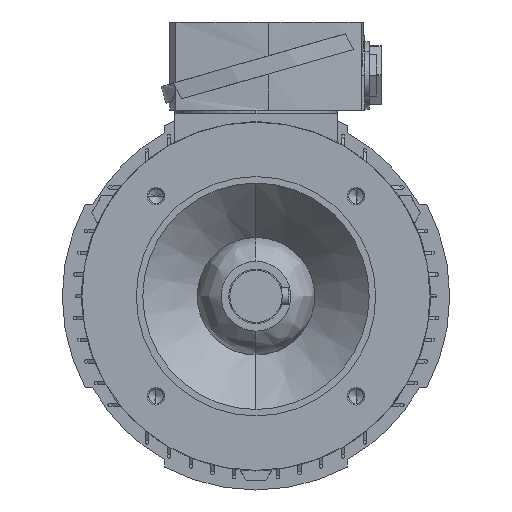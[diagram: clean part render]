
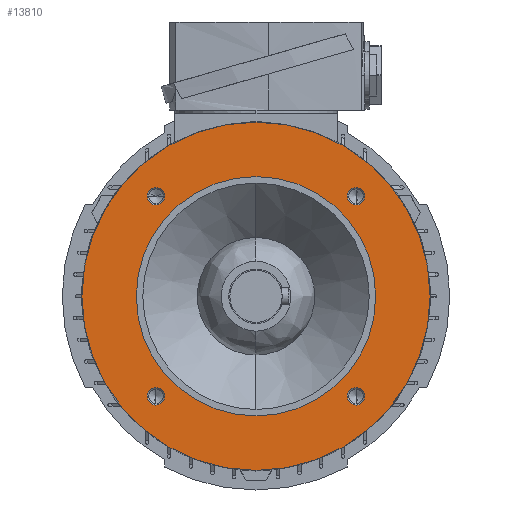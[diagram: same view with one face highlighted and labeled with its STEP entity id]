
A CAD part, left-side view. The second image highlights one B-rep face of the part: STEP entity #13810.
In plain terms, the highlighted planar face has unit normal (-1, 0, 0).
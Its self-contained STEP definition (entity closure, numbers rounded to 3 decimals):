
#2300 = PLANE ( 'NONE',  #15921 ) ;
#2302 = DIRECTION ( 'NONE',  ( -1., 0., 0. ) ) ;
#2307 = CARTESIAN_POINT ( 'NONE',  ( -34.5, 0., 67.5 ) ) ;
#2308 = DIRECTION ( 'NONE',  ( 0., 0., 1. ) ) ;
#3281 = AXIS2_PLACEMENT_3D ( 'NONE', #10238, #10239, #10240 ) ;
#3285 = AXIS2_PLACEMENT_3D ( 'NONE', #10282, #10284, #10286 ) ;
#3290 = AXIS2_PLACEMENT_3D ( 'NONE', #10350, #10351, #10352 ) ;
#3293 = AXIS2_PLACEMENT_3D ( 'NONE', #10377, #10378, #10379 ) ;
#3318 = AXIS2_PLACEMENT_3D ( 'NONE', #6415, #6416, #6417 ) ;
#3320 = AXIS2_PLACEMENT_3D ( 'NONE', #6426, #6427, #6428 ) ;
#3575 = FACE_BOUND ( 'NONE', #20433, .T. ) ;
#3580 = FACE_BOUND ( 'NONE', #20432, .T. ) ;
#3600 = FACE_BOUND ( 'NONE', #20422, .T. ) ;
#3602 = FACE_BOUND ( 'NONE', #20430, .T. ) ;
#3605 = FACE_OUTER_BOUND ( 'NONE', #20392, .T. ) ;
#3608 = FACE_BOUND ( 'NONE', #20419, .T. ) ;
#6094 = CARTESIAN_POINT ( 'NONE',  ( -34.5, 45.962, 49.962 ) ) ;
#6128 = CARTESIAN_POINT ( 'NONE',  ( -34.5, 0., -55. ) ) ;
#6132 = CARTESIAN_POINT ( 'NONE',  ( -34.5, 0., 55. ) ) ;
#6138 = CARTESIAN_POINT ( 'NONE',  ( -34.5, -45.962, 49.962 ) ) ;
#6143 = CARTESIAN_POINT ( 'NONE',  ( -34.5, 45.962, -41.962 ) ) ;
#6165 = CARTESIAN_POINT ( 'NONE',  ( -34.5, 0., 80. ) ) ;
#6415 = CARTESIAN_POINT ( 'NONE',  ( -34.5, 45.962, 45.962 ) ) ;
#6416 = DIRECTION ( 'NONE',  ( 1., 0., 0. ) ) ;
#6417 = DIRECTION ( 'NONE',  ( 0., 0., 1. ) ) ;
#6426 = CARTESIAN_POINT ( 'NONE',  ( -34.5, 45.962, -45.962 ) ) ;
#6427 = DIRECTION ( 'NONE',  ( 1., 0., 0. ) ) ;
#6428 = DIRECTION ( 'NONE',  ( 0., 0., 1. ) ) ;
#8164 = CARTESIAN_POINT ( 'NONE',  ( -34.5, 0., -80. ) ) ;
#8168 = CARTESIAN_POINT ( 'NONE',  ( -34.5, 45.962, 41.962 ) ) ;
#9736 = CARTESIAN_POINT ( 'NONE',  ( -34.5, -45.962, -41.962 ) ) ;
#9741 = CARTESIAN_POINT ( 'NONE',  ( -34.5, -45.962, 41.962 ) ) ;
#9750 = CARTESIAN_POINT ( 'NONE',  ( -34.5, 45.962, -49.962 ) ) ;
#9754 = CARTESIAN_POINT ( 'NONE',  ( -34.5, -45.962, -49.962 ) ) ;
#10238 = CARTESIAN_POINT ( 'NONE',  ( -34.5, 0., 0. ) ) ;
#10239 = DIRECTION ( 'NONE',  ( 1., 0., 0. ) ) ;
#10240 = DIRECTION ( 'NONE',  ( 0., 0., -1. ) ) ;
#10282 = CARTESIAN_POINT ( 'NONE',  ( -34.5, -45.962, -45.962 ) ) ;
#10284 = DIRECTION ( 'NONE',  ( 1., 0., 0. ) ) ;
#10286 = DIRECTION ( 'NONE',  ( 0., 0., 1. ) ) ;
#10350 = CARTESIAN_POINT ( 'NONE',  ( -34.5, 0., 0. ) ) ;
#10351 = DIRECTION ( 'NONE',  ( 1., 0., 0. ) ) ;
#10352 = DIRECTION ( 'NONE',  ( 0., 0., 1. ) ) ;
#10377 = CARTESIAN_POINT ( 'NONE',  ( -34.5, -45.962, 45.962 ) ) ;
#10378 = DIRECTION ( 'NONE',  ( 1., 0., 0. ) ) ;
#10379 = DIRECTION ( 'NONE',  ( 0., 0., 1. ) ) ;
#10593 = ORIENTED_EDGE ( 'NONE', *, *, #15117, .T. ) ;
#10594 = ORIENTED_EDGE ( 'NONE', *, *, #11720, .T. ) ;
#10595 = ORIENTED_EDGE ( 'NONE', *, *, #15186, .F. ) ;
#10596 = ORIENTED_EDGE ( 'NONE', *, *, #11699, .F. ) ;
#10597 = ORIENTED_EDGE ( 'NONE', *, *, #11726, .T. ) ;
#10598 = ORIENTED_EDGE ( 'NONE', *, *, #15116, .T. ) ;
#10599 = ORIENTED_EDGE ( 'NONE', *, *, #11778, .T. ) ;
#10600 = ORIENTED_EDGE ( 'NONE', *, *, #15115, .T. ) ;
#10601 = ORIENTED_EDGE ( 'NONE', *, *, #11782, .T. ) ;
#10602 = ORIENTED_EDGE ( 'NONE', *, *, #15114, .T. ) ;
#10603 = ORIENTED_EDGE ( 'NONE', *, *, #11708, .T. ) ;
#10604 = ORIENTED_EDGE ( 'NONE', *, *, #15113, .T. ) ;
#11699 = EDGE_CURVE ( 'NONE', #23584, #15790, #20020, .T. ) ;
#11708 = EDGE_CURVE ( 'NONE', #12287, #12300, #20027, .T. ) ;
#11720 = EDGE_CURVE ( 'NONE', #23521, #23541, #20047, .T. ) ;
#11726 = EDGE_CURVE ( 'NONE', #23537, #12285, #20054, .T. ) ;
#11778 = EDGE_CURVE ( 'NONE', #23525, #15828, #20119, .T. ) ;
#11782 = EDGE_CURVE ( 'NONE', #23556, #12296, #20126, .T. ) ;
#12285 = VERTEX_POINT ( 'NONE', #9741 ) ;
#12287 = VERTEX_POINT ( 'NONE', #9736 ) ;
#12296 = VERTEX_POINT ( 'NONE', #9750 ) ;
#12300 = VERTEX_POINT ( 'NONE', #9754 ) ;
#13810 = ADVANCED_FACE ( 'NONE', ( #3602, #3605, #3600, #3575, #3580, #3608 ), #2300, .T. ) ;
#15113 = EDGE_CURVE ( 'NONE', #12300, #12287, #20859, .T. ) ;
#15114 = EDGE_CURVE ( 'NONE', #12296, #23556, #20864, .T. ) ;
#15115 = EDGE_CURVE ( 'NONE', #15828, #23525, #20865, .T. ) ;
#15116 = EDGE_CURVE ( 'NONE', #12285, #23537, #20866, .T. ) ;
#15117 = EDGE_CURVE ( 'NONE', #23541, #23521, #20867, .T. ) ;
#15186 = EDGE_CURVE ( 'NONE', #15790, #23584, #20981, .T. ) ;
#15790 = VERTEX_POINT ( 'NONE', #8164 ) ;
#15828 = VERTEX_POINT ( 'NONE', #8168 ) ;
#15921 = AXIS2_PLACEMENT_3D ( 'NONE', #2307, #2302, #2308 ) ;
#19264 = CARTESIAN_POINT ( 'NONE',  ( -34.5, -45.962, -45.962 ) ) ;
#19265 = DIRECTION ( 'NONE',  ( 1., 0., 0. ) ) ;
#19266 = DIRECTION ( 'NONE',  ( 0., 0., 1. ) ) ;
#19267 = CARTESIAN_POINT ( 'NONE',  ( -34.5, 45.962, -45.962 ) ) ;
#19268 = DIRECTION ( 'NONE',  ( 1., 0., 0. ) ) ;
#19269 = DIRECTION ( 'NONE',  ( 0., 0., 1. ) ) ;
#19270 = CARTESIAN_POINT ( 'NONE',  ( -34.5, 45.962, 45.962 ) ) ;
#19271 = DIRECTION ( 'NONE',  ( 1., 0., 0. ) ) ;
#19272 = DIRECTION ( 'NONE',  ( 0., 0., 1. ) ) ;
#19275 = CARTESIAN_POINT ( 'NONE',  ( -34.5, -45.962, 45.962 ) ) ;
#19276 = DIRECTION ( 'NONE',  ( 1., 0., 0. ) ) ;
#19277 = DIRECTION ( 'NONE',  ( 0., 0., 1. ) ) ;
#19280 = CARTESIAN_POINT ( 'NONE',  ( -34.5, 0., 0. ) ) ;
#19281 = DIRECTION ( 'NONE',  ( 1., 0., 0. ) ) ;
#19282 = DIRECTION ( 'NONE',  ( 0., 0., 1. ) ) ;
#19441 = CARTESIAN_POINT ( 'NONE',  ( -34.5, 0., 0. ) ) ;
#19442 = DIRECTION ( 'NONE',  ( 1., 0., 0. ) ) ;
#19443 = DIRECTION ( 'NONE',  ( 0., 0., -1. ) ) ;
#20020 = CIRCLE ( 'NONE', #3281, 80. ) ;
#20027 = CIRCLE ( 'NONE', #3285, 4. ) ;
#20047 = CIRCLE ( 'NONE', #3290, 55. ) ;
#20054 = CIRCLE ( 'NONE', #3293, 4. ) ;
#20119 = CIRCLE ( 'NONE', #3318, 4. ) ;
#20126 = CIRCLE ( 'NONE', #3320, 4. ) ;
#20392 = EDGE_LOOP ( 'NONE', ( #10595, #10596 ) ) ;
#20419 = EDGE_LOOP ( 'NONE', ( #10603, #10604 ) ) ;
#20422 = EDGE_LOOP ( 'NONE', ( #10597, #10598 ) ) ;
#20430 = EDGE_LOOP ( 'NONE', ( #10593, #10594 ) ) ;
#20432 = EDGE_LOOP ( 'NONE', ( #10601, #10602 ) ) ;
#20433 = EDGE_LOOP ( 'NONE', ( #10599, #10600 ) ) ;
#20859 = CIRCLE ( 'NONE', #23169, 4. ) ;
#20864 = CIRCLE ( 'NONE', #23170, 4. ) ;
#20865 = CIRCLE ( 'NONE', #23171, 4. ) ;
#20866 = CIRCLE ( 'NONE', #23172, 4. ) ;
#20867 = CIRCLE ( 'NONE', #23173, 55. ) ;
#20981 = CIRCLE ( 'NONE', #23194, 80. ) ;
#23169 = AXIS2_PLACEMENT_3D ( 'NONE', #19264, #19265, #19266 ) ;
#23170 = AXIS2_PLACEMENT_3D ( 'NONE', #19267, #19268, #19269 ) ;
#23171 = AXIS2_PLACEMENT_3D ( 'NONE', #19270, #19271, #19272 ) ;
#23172 = AXIS2_PLACEMENT_3D ( 'NONE', #19275, #19276, #19277 ) ;
#23173 = AXIS2_PLACEMENT_3D ( 'NONE', #19280, #19281, #19282 ) ;
#23194 = AXIS2_PLACEMENT_3D ( 'NONE', #19441, #19442, #19443 ) ;
#23521 = VERTEX_POINT ( 'NONE', #6128 ) ;
#23525 = VERTEX_POINT ( 'NONE', #6094 ) ;
#23537 = VERTEX_POINT ( 'NONE', #6138 ) ;
#23541 = VERTEX_POINT ( 'NONE', #6132 ) ;
#23556 = VERTEX_POINT ( 'NONE', #6143 ) ;
#23584 = VERTEX_POINT ( 'NONE', #6165 ) ;
